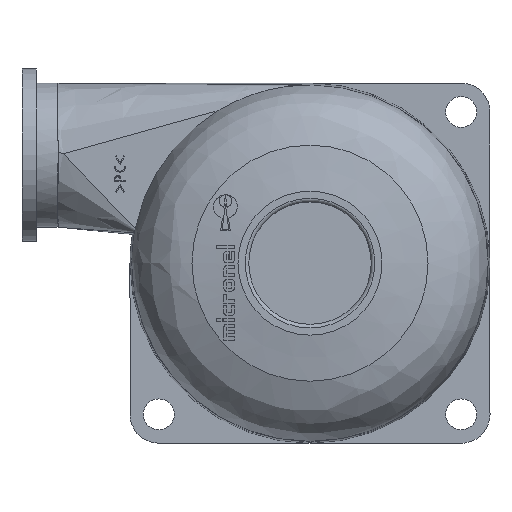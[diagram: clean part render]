
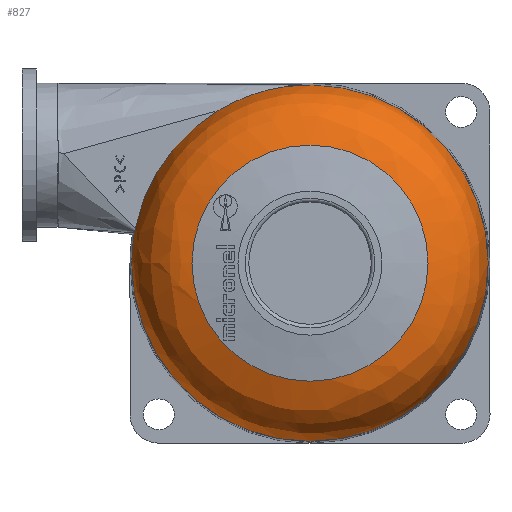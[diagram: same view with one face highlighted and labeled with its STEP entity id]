
A CAD part, left-side view. The second image highlights one B-rep face of the part: STEP entity #827.
In plain terms, the highlighted free-form (B-spline) face has degree [2, 2] with [7, 3] control points.
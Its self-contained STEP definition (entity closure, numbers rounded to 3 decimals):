
#43=(
BOUNDED_SURFACE()
B_SPLINE_SURFACE(2,2,((#8876,#8877,#8878),(#8879,#8880,#8881),(#8882,#8883,
#8884),(#8885,#8886,#8887),(#8888,#8889,#8890),(#8891,#8892,#8893),(#8894,
#8895,#8896)),.UNSPECIFIED.,.T.,.F.,.F.)
B_SPLINE_SURFACE_WITH_KNOTS((1,2,2,2,2,1),(3,3),(-0.333,0.,0.333,
0.667,1.,1.333),(0.,1.),.UNSPECIFIED.)
GEOMETRIC_REPRESENTATION_ITEM()
RATIONAL_B_SPLINE_SURFACE(((1.,0.772,1.),(0.5,0.386,
0.5),(1.,0.772,1.),(0.5,0.386,0.5),(1.,0.772,
1.),(0.5,0.386,0.5),(1.,0.772,1.)))
REPRESENTATION_ITEM('')
SURFACE()
);
#62=(
BOUNDED_CURVE()
B_SPLINE_CURVE(2,(#8857,#8858,#8859),.UNSPECIFIED.,.F.,.F.)
B_SPLINE_CURVE_WITH_KNOTS((3,3),(0.,1.),.UNSPECIFIED.)
CURVE()
GEOMETRIC_REPRESENTATION_ITEM()
RATIONAL_B_SPLINE_CURVE((0.804,0.801,0.799))
REPRESENTATION_ITEM('')
);
#230=B_SPLINE_CURVE_WITH_KNOTS('',3,(#8841,#8842,#8843,#8844,#8845,#8846,
#8847,#8848,#8849,#8850),.UNSPECIFIED.,.F.,.F.,(4,3,3,4),(0.,0.401,
0.805,1.),.UNSPECIFIED.);
#231=B_SPLINE_CURVE_WITH_KNOTS('',3,(#8861,#8862,#8863,#8864,#8865,#8866),
 .UNSPECIFIED.,.F.,.F.,(4,2,4),(0.,0.5,1.),.UNSPECIFIED.);
#232=B_SPLINE_CURVE_WITH_KNOTS('',3,(#8870,#8871,#8872,#8873),.UNSPECIFIED.,
 .F.,.F.,(4,4),(0.,1.),.UNSPECIFIED.);
#827=ADVANCED_FACE('',(#2286,#2287),#43,.T.);
#2286=FACE_BOUND('',#2569,.T.);
#2287=FACE_BOUND('',#2570,.T.);
#2569=EDGE_LOOP('',(#3712));
#2570=EDGE_LOOP('',(#3713,#3714,#3715,#3716,#3717,#3718,#3719,#3720));
#3712=ORIENTED_EDGE('',*,*,#5394,.T.);
#3713=ORIENTED_EDGE('',*,*,#5395,.T.);
#3714=ORIENTED_EDGE('',*,*,#5396,.F.);
#3715=ORIENTED_EDGE('',*,*,#5397,.F.);
#3716=ORIENTED_EDGE('',*,*,#5398,.T.);
#3717=ORIENTED_EDGE('',*,*,#5399,.T.);
#3718=ORIENTED_EDGE('',*,*,#5400,.F.);
#3719=ORIENTED_EDGE('',*,*,#5401,.T.);
#3720=ORIENTED_EDGE('',*,*,#5402,.T.);
#4680=VERTEX_POINT('',#8840);
#4681=VERTEX_POINT('',#8851);
#4682=VERTEX_POINT('',#8852);
#4683=VERTEX_POINT('',#8854);
#4684=VERTEX_POINT('',#8856);
#4685=VERTEX_POINT('',#8860);
#4686=VERTEX_POINT('',#8867);
#4687=VERTEX_POINT('',#8869);
#4688=VERTEX_POINT('',#8874);
#5394=EDGE_CURVE('',#4680,#4680,#5769,.T.);
#5395=EDGE_CURVE('',#4681,#4682,#230,.T.);
#5396=EDGE_CURVE('',#4683,#4682,#5770,.T.);
#5397=EDGE_CURVE('',#4684,#4683,#5771,.T.);
#5398=EDGE_CURVE('',#4684,#4685,#62,.T.);
#5399=EDGE_CURVE('',#4685,#4686,#231,.T.);
#5400=EDGE_CURVE('',#4687,#4686,#5772,.T.);
#5401=EDGE_CURVE('',#4687,#4688,#232,.T.);
#5402=EDGE_CURVE('',#4688,#4681,#5773,.T.);
#5769=CIRCLE('',#6075,16.397);
#5770=CIRCLE('',#6076,24.743);
#5771=CIRCLE('',#6077,24.743);
#5772=CIRCLE('',#6078,24.743);
#5773=CIRCLE('',#6079,24.737);
#6075=AXIS2_PLACEMENT_3D('',#8839,#7182,#7183);
#6076=AXIS2_PLACEMENT_3D('',#8853,#7184,#7185);
#6077=AXIS2_PLACEMENT_3D('',#8855,#7186,#7187);
#6078=AXIS2_PLACEMENT_3D('',#8868,#7188,#7189);
#6079=AXIS2_PLACEMENT_3D('',#8875,#7190,#7191);
#7182=DIRECTION('',(1.,0.,0.));
#7183=DIRECTION('',(0.,1.,0.));
#7184=DIRECTION('',(1.,0.,0.));
#7185=DIRECTION('',(0.,1.,0.));
#7186=DIRECTION('',(1.,0.,0.));
#7187=DIRECTION('',(0.,0.,1.));
#7188=DIRECTION('',(1.,0.,0.));
#7189=DIRECTION('',(0.,0.334,0.943));
#7190=DIRECTION('',(-1.,0.,0.));
#7191=DIRECTION('',(0.,0.516,0.856));
#8839=CARTESIAN_POINT('',(-27.553,-7.588,0.72));
#8840=CARTESIAN_POINT('',(-27.553,8.808,0.72));
#8841=CARTESIAN_POINT('',(-18.123,16.676,5.533));
#8842=CARTESIAN_POINT('',(-18.123,16.687,5.474));
#8843=CARTESIAN_POINT('',(-18.112,16.699,5.415));
#8844=CARTESIAN_POINT('',(-18.093,16.711,5.36));
#8845=CARTESIAN_POINT('',(-18.073,16.722,5.305));
#8846=CARTESIAN_POINT('',(-18.044,16.733,5.252));
#8847=CARTESIAN_POINT('',(-18.008,16.743,5.205));
#8848=CARTESIAN_POINT('',(-17.991,16.748,5.181));
#8849=CARTESIAN_POINT('',(-17.972,16.752,5.16));
#8850=CARTESIAN_POINT('',(-17.951,16.757,5.139));
#8851=CARTESIAN_POINT('',(-18.123,16.676,5.533));
#8852=CARTESIAN_POINT('',(-17.951,16.757,5.139));
#8853=CARTESIAN_POINT('',(-17.951,-7.588,0.72));
#8854=CARTESIAN_POINT('',(-17.951,17.154,0.72));
#8855=CARTESIAN_POINT('',(-17.951,-7.588,0.72));
#8856=CARTESIAN_POINT('',(-17.951,-7.588,25.463));
#8857=CARTESIAN_POINT('',(-17.951,-7.588,25.463));
#8858=CARTESIAN_POINT('',(-18.037,-7.588,25.461));
#8859=CARTESIAN_POINT('',(-18.123,-7.588,25.457));
#8860=CARTESIAN_POINT('',(-18.123,-7.588,25.458));
#8861=CARTESIAN_POINT('',(-18.123,-7.588,25.457));
#8862=CARTESIAN_POINT('',(-18.123,-7.579,25.457));
#8863=CARTESIAN_POINT('',(-18.115,-7.539,25.458));
#8864=CARTESIAN_POINT('',(-18.018,-7.06,25.457));
#8865=CARTESIAN_POINT('',(-17.979,-6.827,25.451));
#8866=CARTESIAN_POINT('',(-17.951,-6.603,25.443));
#8867=CARTESIAN_POINT('',(-17.951,-6.603,25.443));
#8868=CARTESIAN_POINT('',(-17.951,-7.588,0.72));
#8869=CARTESIAN_POINT('',(-17.951,0.678,24.041));
#8870=CARTESIAN_POINT('',(-17.951,0.678,24.041));
#8871=CARTESIAN_POINT('',(-18.036,2.252,23.481));
#8872=CARTESIAN_POINT('',(-18.123,3.754,22.767));
#8873=CARTESIAN_POINT('',(-18.123,5.187,21.903));
#8874=CARTESIAN_POINT('',(-18.123,5.187,21.903));
#8875=CARTESIAN_POINT('',(-18.123,-7.588,0.72));
#8876=CARTESIAN_POINT('',(-27.553,8.808,0.72));
#8877=CARTESIAN_POINT('',(-26.192,16.939,0.72));
#8878=CARTESIAN_POINT('',(-17.951,17.154,0.72));
#8879=CARTESIAN_POINT('',(-27.553,8.808,29.12));
#8880=CARTESIAN_POINT('',(-26.192,16.939,43.202));
#8881=CARTESIAN_POINT('',(-17.951,17.154,43.576));
#8882=CARTESIAN_POINT('',(-27.553,-15.787,14.92));
#8883=CARTESIAN_POINT('',(-26.192,-19.852,21.961));
#8884=CARTESIAN_POINT('',(-17.951,-19.96,22.148));
#8885=CARTESIAN_POINT('',(-27.553,-40.381,0.72));
#8886=CARTESIAN_POINT('',(-26.192,-56.642,0.72));
#8887=CARTESIAN_POINT('',(-17.951,-57.074,0.72));
#8888=CARTESIAN_POINT('',(-27.553,-15.787,-13.48));
#8889=CARTESIAN_POINT('',(-26.192,-19.852,-20.521));
#8890=CARTESIAN_POINT('',(-17.951,-19.96,-20.707));
#8891=CARTESIAN_POINT('',(-27.553,8.808,-27.679));
#8892=CARTESIAN_POINT('',(-26.192,16.939,-41.761));
#8893=CARTESIAN_POINT('',(-17.951,17.154,-42.135));
#8894=CARTESIAN_POINT('',(-27.553,8.808,0.72));
#8895=CARTESIAN_POINT('',(-26.192,16.939,0.72));
#8896=CARTESIAN_POINT('',(-17.951,17.154,0.72));
